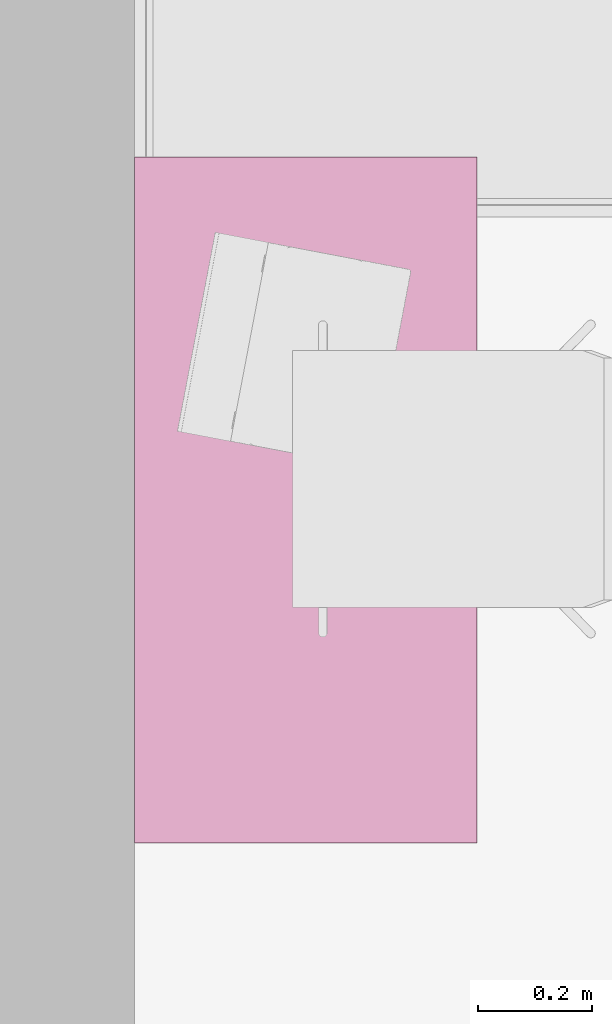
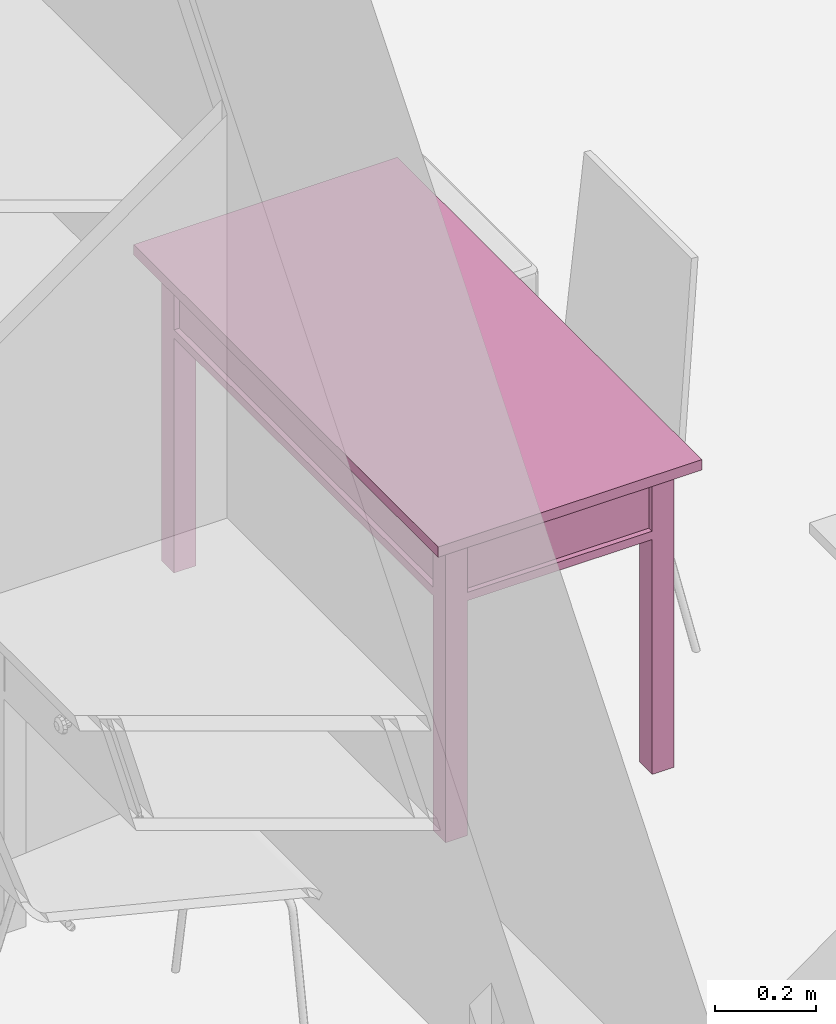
# One storey, part 116 of 165: 1 furnishing.
"""IFC2X3 building model written with IfcOpenShell, lengths in millimetres."""

from ifc_helpers import new_model, entity, si_unit, converted_unit, money_unit, direction, frame, origin_with_axes, place, context, subcontext, project, spatial, faceted_brep, source, transform, mapped, material, material_list, type_object, element, save


model = new_model("IFC2X3")

# Units and contexts
model_context = context("Model", 3, precision=1e-05, world=origin_with_axes(), true_north=direction((0.0, 1.0)))
body_context = subcontext(model_context, "Body", "Model", "MODEL_VIEW")
ifc_project = project(units=[si_unit("LENGTHUNIT", "METRE", prefix="MILLI"), si_unit("AREAUNIT", "SQUARE_METRE"), si_unit("VOLUMEUNIT", "CUBIC_METRE"), converted_unit("PLANEANGLEUNIT", "DEGREE", entity("IfcPlaneAngleMeasure", 0.0174532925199), si_unit("PLANEANGLEUNIT", "RADIAN"), dimensions=[0, 0, 0, 0, 0, 0, 0]), si_unit("SOLIDANGLEUNIT", "STERADIAN"), money_unit("USD"), converted_unit("TIMEUNIT", "Year", entity("IfcTimeMeasure", 31556926.0), si_unit("TIMEUNIT", "SECOND"), dimensions=[0, 0, 0, 0, 0, 0, 0]), si_unit("MASSUNIT", "GRAM"), si_unit("THERMODYNAMICTEMPERATUREUNIT", "DEGREE_CELSIUS"), si_unit("LUMINOUSINTENSITYUNIT", "LUMEN")], contexts=[model_context])

# Site, building, storey
site_placement = place(None, origin_with_axes())
site = spatial("IfcSite", under=ifc_project, at=site_placement, Name="Site", CompositionType="ELEMENT")
building_placement = place(site_placement, origin_with_axes())
building = spatial("IfcBuilding", under=site, at=building_placement, Name="Building", CompositionType="ELEMENT")
storey_placement = place(building_placement, frame((0.0, 0.0, 6300.0), z_axis=(0.0, 0.0, 1.0), x_axis=(1.0, 0.0, 0.0)))
storey = spatial("IfcBuildingStorey", under=building, at=storey_placement, Name="4KORRUS", CompositionType="ELEMENT", Elevation=6300.0)

# Furnishing
ifc_material = material(Name="Background")
ifc_material_list = material_list([ifc_material])
furnishing_element_type = type_object("IfcFurnishingElementType", Name="Rectangular Table 01 19")
shared_shape = source(origin_with_axes(), body_context, "Body", "Brep", [
    faceted_brep([(-90.0, 40.0, 0.0), (-90.0, 90.0, 0.0), (-40.0, 90.0, 0.0), (-40.0, 40.0, 0.0), (-90.0, 40.0, 725.0), (-90.0, 90.0, 725.0), (-40.0, 90.0, 725.0), (-40.0, 40.0, 725.0)], [[[0, 1, 2, 3]], [[0, 4, 5, 1]], [[1, 5, 6, 2]], [[2, 6, 7, 3]], [[3, 7, 4, 0]], [[7, 6, 5, 4]]]),
    faceted_brep([(-1160.0, 40.0, 0.0), (-1160.0, 90.0, 0.0), (-1110.0, 90.0, 0.0), (-1110.0, 40.0, 0.0), (-1160.0, 40.0, 725.0), (-1160.0, 90.0, 725.0), (-1110.0, 90.0, 725.0), (-1110.0, 40.0, 725.0)], [[[0, 1, 2, 3]], [[0, 4, 5, 1]], [[1, 5, 6, 2]], [[2, 6, 7, 3]], [[3, 7, 4, 0]], [[7, 6, 5, 4]]]),
    faceted_brep([(-90.0, 510.0, 0.0), (-90.0, 560.0, 0.0), (-40.0, 560.0, 0.0), (-40.0, 510.0, 0.0), (-90.0, 510.0, 725.0), (-90.0, 560.0, 725.0), (-40.0, 560.0, 725.0), (-40.0, 510.0, 725.0)], [[[0, 1, 2, 3]], [[0, 4, 5, 1]], [[1, 5, 6, 2]], [[2, 6, 7, 3]], [[3, 7, 4, 0]], [[7, 6, 5, 4]]]),
    faceted_brep([(-1160.0, 510.0, 0.0), (-1160.0, 560.0, 0.0), (-1110.0, 560.0, 0.0), (-1110.0, 510.0, 0.0), (-1160.0, 510.0, 725.0), (-1160.0, 560.0, 725.0), (-1110.0, 560.0, 725.0), (-1110.0, 510.0, 725.0)], [[[0, 1, 2, 3]], [[0, 4, 5, 1]], [[1, 5, 6, 2]], [[2, 6, 7, 3]], [[3, 7, 4, 0]], [[7, 6, 5, 4]]]),
    faceted_brep([(-1160.0, 40.0, 565.0), (-1160.0, 560.0, 565.0), (-40.0, 560.0, 565.0), (-40.0, 40.0, 565.0), (-1160.0, 40.0, 585.0), (-1160.0, 560.0, 585.0), (-40.0, 560.0, 585.0), (-40.0, 40.0, 585.0)], [[[0, 1, 2, 3]], [[0, 4, 5, 1]], [[1, 5, 6, 2]], [[2, 6, 7, 3]], [[3, 7, 4, 0]], [[7, 6, 5, 4]]]),
    faceted_brep([(-1110.0, 52.5, 585.0), (-1110.0, 77.5, 585.0), (-90.0, 77.5, 585.0), (-90.0, 52.5, 585.0), (-1110.0, 52.5, 745.0), (-1110.0, 77.5, 745.0), (-90.0, 77.5, 745.0), (-90.0, 52.5, 745.0)], [[[0, 1, 2, 3]], [[0, 4, 5, 1]], [[1, 5, 6, 2]], [[2, 6, 7, 3]], [[3, 7, 4, 0]], [[7, 6, 5, 4]]]),
    faceted_brep([(-77.5, 90.0, 585.0), (-77.5, 510.0, 585.0), (-52.5, 510.0, 585.0), (-52.5, 90.0, 585.0), (-77.5, 90.0, 745.0), (-77.5, 510.0, 745.0), (-52.5, 510.0, 745.0), (-52.5, 90.0, 745.0)], [[[0, 1, 2, 3]], [[0, 4, 5, 1]], [[1, 5, 6, 2]], [[2, 6, 7, 3]], [[3, 7, 4, 0]], [[7, 6, 5, 4]]]),
    faceted_brep([(-90.0, 547.5, 585.0), (-90.0, 522.5, 585.0), (-1110.0, 522.5, 585.0), (-1110.0, 547.5, 585.0), (-90.0, 547.5, 745.0), (-90.0, 522.5, 745.0), (-1110.0, 522.5, 745.0), (-1110.0, 547.5, 745.0)], [[[0, 1, 2, 3]], [[0, 4, 5, 1]], [[1, 5, 6, 2]], [[2, 6, 7, 3]], [[3, 7, 4, 0]], [[7, 6, 5, 4]]]),
    faceted_brep([(-1122.5, 510.0, 585.0), (-1122.5, 90.0, 585.0), (-1147.5, 90.0, 585.0), (-1147.5, 510.0, 585.0), (-1122.5, 510.0, 745.0), (-1122.5, 90.0, 745.0), (-1147.5, 90.0, 745.0), (-1147.5, 510.0, 745.0)], [[[0, 1, 2, 3]], [[0, 4, 5, 1]], [[1, 5, 6, 2]], [[2, 6, 7, 3]], [[3, 7, 4, 0]], [[7, 6, 5, 4]]]),
    faceted_brep([(-597.5, 40.0, 585.0), (-597.5, 60.0, 585.0), (-95.0, 60.0, 585.0), (-95.0, 40.0, 585.0), (-597.5, 40.0, 745.0), (-597.5, 60.0, 745.0), (-95.0, 60.0, 745.0), (-95.0, 40.0, 745.0)], [[[0, 1, 2, 3]], [[0, 4, 5, 1]], [[1, 5, 6, 2]], [[2, 6, 7, 3]], [[3, 7, 4, 0]], [[7, 6, 5, 4]]]),
    faceted_brep([(-1105.0, 40.0, 585.0), (-1105.0, 60.0, 585.0), (-602.5, 60.0, 585.0), (-602.5, 40.0, 585.0), (-1105.0, 40.0, 745.0), (-1105.0, 60.0, 745.0), (-602.5, 60.0, 745.0), (-602.5, 40.0, 745.0)], [[[0, 1, 2, 3]], [[0, 4, 5, 1]], [[1, 5, 6, 2]], [[2, 6, 7, 3]], [[3, 7, 4, 0]], [[7, 6, 5, 4]]]),
    faceted_brep([(-354.91, 40.0, 660.0), (-356.25, 40.0, 665.0), (-354.91, 40.0, 670.0), (-351.25, 40.0, 673.66), (-346.25, 40.0, 675.0), (-341.25, 40.0, 673.66), (-337.59, 40.0, 670.0), (-336.25, 40.0, 665.0), (-337.59, 40.0, 660.0), (-341.25, 40.0, 656.34), (-346.25, 40.0, 655.0), (-351.25, 40.0, 656.34), (-354.91, 25.0, 660.0), (-356.25, 25.0, 665.0), (-354.91, 25.0, 670.0), (-351.25, 25.0, 673.66), (-346.25, 25.0, 675.0), (-341.25, 25.0, 673.66), (-337.59, 25.0, 670.0), (-336.25, 25.0, 665.0), (-337.59, 25.0, 660.0), (-341.25, 25.0, 656.34), (-346.25, 25.0, 655.0), (-351.25, 25.0, 656.34)], [[[0, 1, 2, 3, 4, 5, 6, 7, 8, 9, 10, 11]], [[0, 12, 13, 1]], [[1, 13, 14, 2]], [[2, 14, 15, 3]], [[3, 15, 16, 4]], [[4, 16, 17, 5]], [[5, 17, 18, 6]], [[6, 18, 19, 7]], [[7, 19, 20, 8]], [[8, 20, 21, 9]], [[9, 21, 22, 10]], [[10, 22, 23, 11]], [[11, 23, 12, 0]], [[12, 23, 22, 21, 20, 19, 18, 17, 16, 15, 14, 13]]]),
    faceted_brep([(-356.25, 12.01, 665.0), (-354.91, 12.01, 660.0), (-346.25, 10.0, 665.0), (-363.571, 17.5, 665.0), (-361.25, 17.5, 656.34), (-351.25, 12.01, 656.34), (-354.91, 12.01, 670.0), (-366.25, 25.0, 665.0), (-363.571, 25.0, 655.0), (-354.91, 17.5, 650.0), (-361.25, 17.5, 673.66), (-346.25, 12.01, 655.0), (-351.25, 12.01, 673.66), (-363.571, 25.0, 675.0), (-356.25, 25.0, 682.321), (-346.25, 25.0, 685.0), (-336.25, 25.0, 682.321), (-328.929, 25.0, 675.0), (-326.25, 25.0, 665.0), (-328.929, 25.0, 655.0), (-336.25, 25.0, 647.679), (-346.25, 25.0, 645.0), (-356.25, 25.0, 647.679), (-346.25, 17.5, 647.679), (-354.91, 17.5, 680.0), (-341.25, 12.01, 656.34), (-346.25, 12.01, 675.0), (-346.25, 17.5, 682.321), (-337.59, 17.5, 680.0), (-331.25, 17.5, 673.66), (-328.929, 17.5, 665.0), (-331.25, 17.5, 656.34), (-337.59, 17.5, 650.0), (-337.59, 12.01, 660.0), (-341.25, 12.01, 673.66), (-337.59, 12.01, 670.0), (-336.25, 12.01, 665.0)], [[[0, 1, 2]], [[3, 4, 1, 0]], [[1, 5, 2]], [[6, 0, 2]], [[7, 8, 4, 3]], [[4, 9, 5, 1]], [[10, 3, 0, 6]], [[5, 11, 2]], [[12, 6, 2]], [[8, 7, 13, 14, 15, 16, 17, 18, 19, 20, 21, 22]], [[8, 22, 9, 4]], [[13, 7, 3, 10]], [[9, 23, 11, 5]], [[24, 10, 6, 12]], [[11, 25, 2]], [[26, 12, 2]], [[14, 13, 10, 24]], [[15, 14, 24, 27]], [[16, 15, 27, 28]], [[17, 16, 28, 29]], [[18, 17, 29, 30]], [[19, 18, 30, 31]], [[20, 19, 31, 32]], [[21, 20, 32, 23]], [[22, 21, 23, 9]], [[23, 32, 25, 11]], [[27, 24, 12, 26]], [[25, 33, 2]], [[34, 26, 2]], [[28, 27, 26, 34]], [[29, 28, 34, 35]], [[30, 29, 35, 36]], [[31, 30, 36, 33]], [[32, 31, 33, 25]], [[33, 36, 2]], [[35, 34, 2]], [[36, 35, 2]]]),
    faceted_brep([(-862.41, 40.0, 660.0), (-863.75, 40.0, 665.0), (-862.41, 40.0, 670.0), (-858.75, 40.0, 673.66), (-853.75, 40.0, 675.0), (-848.75, 40.0, 673.66), (-845.09, 40.0, 670.0), (-843.75, 40.0, 665.0), (-845.09, 40.0, 660.0), (-848.75, 40.0, 656.34), (-853.75, 40.0, 655.0), (-858.75, 40.0, 656.34), (-862.41, 25.0, 660.0), (-863.75, 25.0, 665.0), (-862.41, 25.0, 670.0), (-858.75, 25.0, 673.66), (-853.75, 25.0, 675.0), (-848.75, 25.0, 673.66), (-845.09, 25.0, 670.0), (-843.75, 25.0, 665.0), (-845.09, 25.0, 660.0), (-848.75, 25.0, 656.34), (-853.75, 25.0, 655.0), (-858.75, 25.0, 656.34)], [[[0, 1, 2, 3, 4, 5, 6, 7, 8, 9, 10, 11]], [[0, 12, 13, 1]], [[1, 13, 14, 2]], [[2, 14, 15, 3]], [[3, 15, 16, 4]], [[4, 16, 17, 5]], [[5, 17, 18, 6]], [[6, 18, 19, 7]], [[7, 19, 20, 8]], [[8, 20, 21, 9]], [[9, 21, 22, 10]], [[10, 22, 23, 11]], [[11, 23, 12, 0]], [[12, 23, 22, 21, 20, 19, 18, 17, 16, 15, 14, 13]]]),
    faceted_brep([(-863.75, 12.01, 665.0), (-862.41, 12.01, 660.0), (-853.75, 10.0, 665.0), (-871.071, 17.5, 665.0), (-868.75, 17.5, 656.34), (-858.75, 12.01, 656.34), (-862.41, 12.01, 670.0), (-873.75, 25.0, 665.0), (-871.071, 25.0, 655.0), (-862.41, 17.5, 650.0), (-868.75, 17.5, 673.66), (-853.75, 12.01, 655.0), (-858.75, 12.01, 673.66), (-871.071, 25.0, 675.0), (-863.75, 25.0, 682.321), (-853.75, 25.0, 685.0), (-843.75, 25.0, 682.321), (-836.429, 25.0, 675.0), (-833.75, 25.0, 665.0), (-836.429, 25.0, 655.0), (-843.75, 25.0, 647.679), (-853.75, 25.0, 645.0), (-863.75, 25.0, 647.679), (-853.75, 17.5, 647.679), (-862.41, 17.5, 680.0), (-848.75, 12.01, 656.34), (-853.75, 12.01, 675.0), (-853.75, 17.5, 682.321), (-845.09, 17.5, 680.0), (-838.75, 17.5, 673.66), (-836.429, 17.5, 665.0), (-838.75, 17.5, 656.34), (-845.09, 17.5, 650.0), (-845.09, 12.01, 660.0), (-848.75, 12.01, 673.66), (-845.09, 12.01, 670.0), (-843.75, 12.01, 665.0)], [[[0, 1, 2]], [[3, 4, 1, 0]], [[1, 5, 2]], [[6, 0, 2]], [[7, 8, 4, 3]], [[4, 9, 5, 1]], [[10, 3, 0, 6]], [[5, 11, 2]], [[12, 6, 2]], [[8, 7, 13, 14, 15, 16, 17, 18, 19, 20, 21, 22]], [[8, 22, 9, 4]], [[13, 7, 3, 10]], [[9, 23, 11, 5]], [[24, 10, 6, 12]], [[11, 25, 2]], [[26, 12, 2]], [[14, 13, 10, 24]], [[15, 14, 24, 27]], [[16, 15, 27, 28]], [[17, 16, 28, 29]], [[18, 17, 29, 30]], [[19, 18, 30, 31]], [[20, 19, 31, 32]], [[21, 20, 32, 23]], [[22, 21, 23, 9]], [[23, 32, 25, 11]], [[27, 24, 12, 26]], [[25, 33, 2]], [[34, 26, 2]], [[28, 27, 26, 34]], [[29, 28, 34, 35]], [[30, 29, 35, 36]], [[31, 30, 36, 33]], [[32, 31, 33, 25]], [[33, 36, 2]], [[35, 34, 2]], [[36, 35, 2]]]),
    faceted_brep([(-1200.0, 0.0, 725.0), (-1200.0, 600.0, 725.0), (0.0, 600.0, 725.0), (0.0, 0.0, 725.0), (-1200.0, 0.0, 750.0), (-1200.0, 600.0, 750.0), (0.0, 600.0, 750.0), (0.0, 0.0, 750.0)], [[[0, 1, 2, 3]], [[0, 4, 5, 1]], [[1, 5, 6, 2]], [[2, 6, 7, 3]], [[3, 7, 4, 0]], [[7, 6, 5, 4]]]),
])
furnishing_placement = place(storey_placement, frame((609.703296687, -17334.8573505, 0.0), z_axis=(0.0, 0.0, 1.0), x_axis=(0.0, 1.0, 0.0)))
element("IfcFurnishingElement", 1, at=furnishing_placement, inside=storey, type_object=furnishing_element_type, material=ifc_material_list, Name="FU - 011", context=body_context, shape_type="MappedRepresentation", body=[
    mapped(shared_shape, transform((0.0, 0.0, 0.0))),
])

save(model, "model.ifc")
